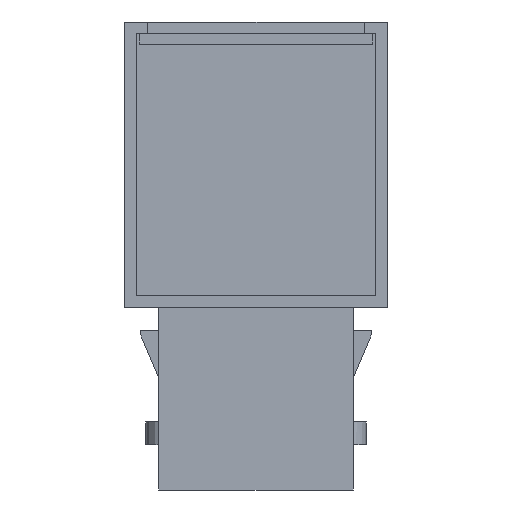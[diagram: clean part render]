
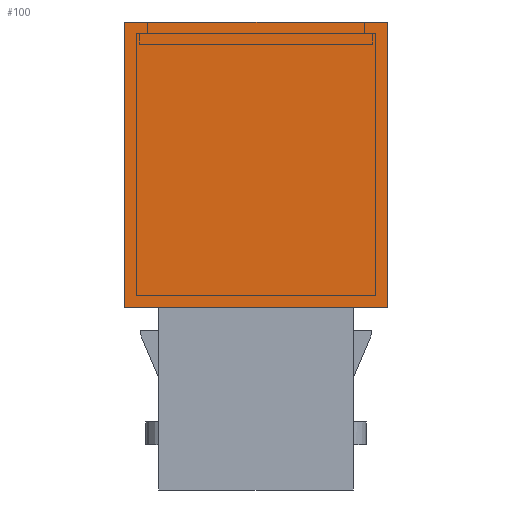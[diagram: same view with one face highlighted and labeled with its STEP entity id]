
A CAD part, front view. The second image highlights one B-rep face of the part: STEP entity #100.
In plain terms, the highlighted planar face has unit normal (0, -1, 0).
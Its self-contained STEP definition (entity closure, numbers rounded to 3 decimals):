
#100=ADVANCED_FACE('',(#186),#1238,.T.);
#186=FACE_OUTER_BOUND('',#272,.T.);
#272=EDGE_LOOP('',(#504,#505,#506,#507));
#504=ORIENTED_EDGE('',*,*,#799,.F.);
#505=ORIENTED_EDGE('',*,*,#796,.F.);
#506=ORIENTED_EDGE('',*,*,#793,.F.);
#507=ORIENTED_EDGE('',*,*,#790,.F.);
#790=EDGE_CURVE('',#1130,#1131,#974,.T.);
#793=EDGE_CURVE('',#1131,#1133,#977,.T.);
#796=EDGE_CURVE('',#1133,#1135,#980,.T.);
#799=EDGE_CURVE('',#1135,#1130,#983,.T.);
#974=B_SPLINE_CURVE_WITH_KNOTS('',1,(#1832,#1833),.UNSPECIFIED.,.F.,.F.,
(2,2),(-25.,0.),.UNSPECIFIED.);
#977=B_SPLINE_CURVE_WITH_KNOTS('',1,(#1838,#1839),.UNSPECIFIED.,.F.,.F.,
(2,2),(-23.,0.),.UNSPECIFIED.);
#980=B_SPLINE_CURVE_WITH_KNOTS('',1,(#1844,#1845),.UNSPECIFIED.,.F.,.F.,
(2,2),(-25.,0.),.UNSPECIFIED.);
#983=B_SPLINE_CURVE_WITH_KNOTS('',1,(#1850,#1851),.UNSPECIFIED.,.F.,.F.,
(2,2),(-23.,0.),.UNSPECIFIED.);
#1130=VERTEX_POINT('',#1822);
#1131=VERTEX_POINT('',#1823);
#1133=VERTEX_POINT('',#1825);
#1135=VERTEX_POINT('',#1827);
#1238=PLANE('',#1408);
#1408=AXIS2_PLACEMENT_3D('',#1818,#1497,$);
#1497=DIRECTION('',(0.,-1.,0.));
#1818=CARTESIAN_POINT('',(96.712,-425.112,62.387));
#1822=CARTESIAN_POINT('',(73.702,-425.112,62.397));
#1823=CARTESIAN_POINT('',(73.702,-425.112,87.397));
#1825=CARTESIAN_POINT('',(96.702,-425.112,87.397));
#1827=CARTESIAN_POINT('',(96.702,-425.112,62.397));
#1832=CARTESIAN_POINT('',(73.702,-425.112,62.397));
#1833=CARTESIAN_POINT('',(73.702,-425.112,87.397));
#1838=CARTESIAN_POINT('',(73.702,-425.112,87.397));
#1839=CARTESIAN_POINT('',(96.702,-425.112,87.397));
#1844=CARTESIAN_POINT('',(96.702,-425.112,87.397));
#1845=CARTESIAN_POINT('',(96.702,-425.112,62.397));
#1850=CARTESIAN_POINT('',(96.702,-425.112,62.397));
#1851=CARTESIAN_POINT('',(73.702,-425.112,62.397));
